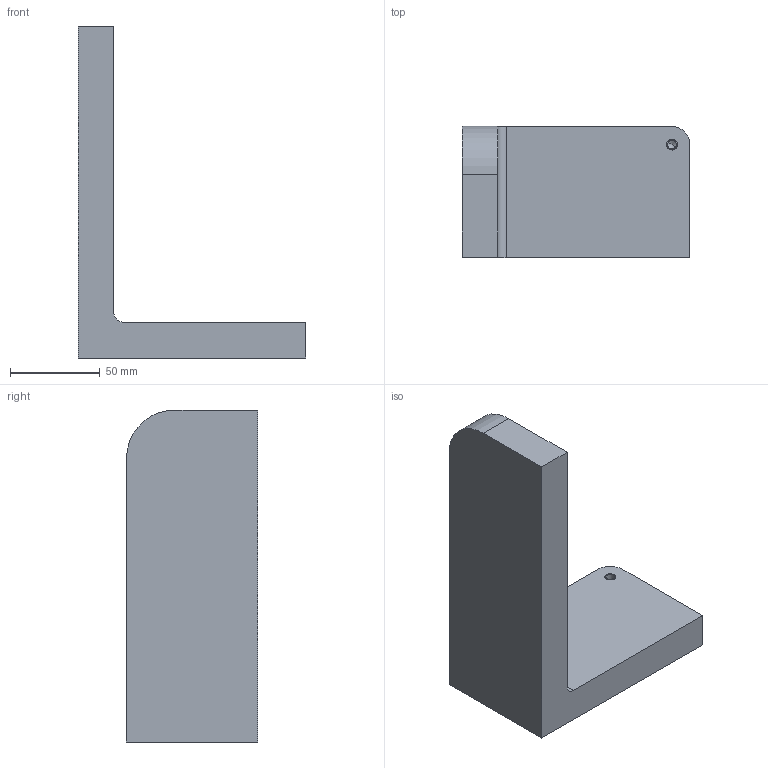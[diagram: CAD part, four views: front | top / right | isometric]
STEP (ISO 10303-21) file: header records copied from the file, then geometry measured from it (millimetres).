
FILE_DESCRIPTION(('CATIA V5 STEP Exchange'),'2;1');
FILE_NAME('C:\_Andres\UNIVERSIDAD\IQS\ASIGNATURAS\DAO\EXF\EXF-16172c\2inicio\Reyes_Carmenaty_Ej01_v27.stp','2017-03-05T15:11:10+00:00',('none'),('none'),'CATIA Version 5-6 Release 2014 SP1 HF18','CATIA V5 STEP AP203','none');
FILE_SCHEMA(('CONFIG_CONTROL_DESIGN'));
Length unit declared in the file: millimetre
Products named in the file (1): Reyes_Carmenaty_Ej01_v27
Bounding box: 127 x 73 x 185 mm (x, y, z)
Volume: 422840.7 mm3; surface area: 56888.9 mm2
Topology: 1 solids, 2 shells, 17 faces, 43 edges, 27 vertices
Faces by surface type: plane 8, cylinder 7, cone 2
Entity records: 513 total; most frequent: CARTESIAN_POINT 83, ORIENTED_EDGE 78, DIRECTION 69, EDGE_CURVE 41, AXIS2_PLACEMENT_3D 29, VECTOR 27, LINE 27, VERTEX_POINT 27
